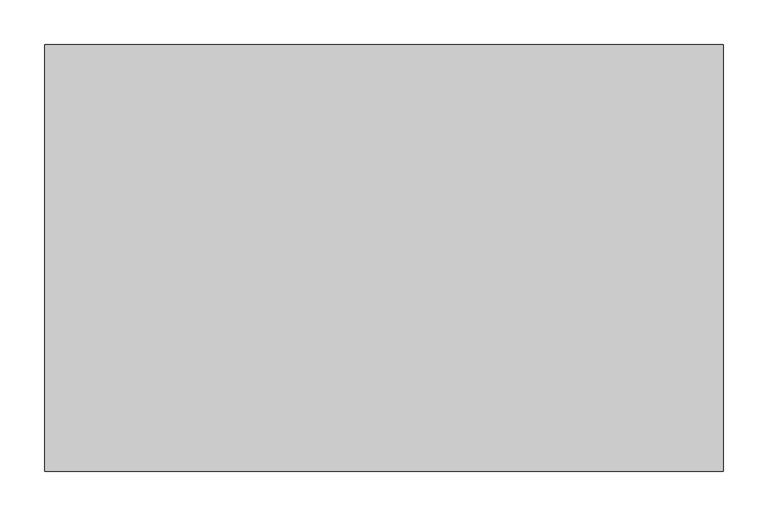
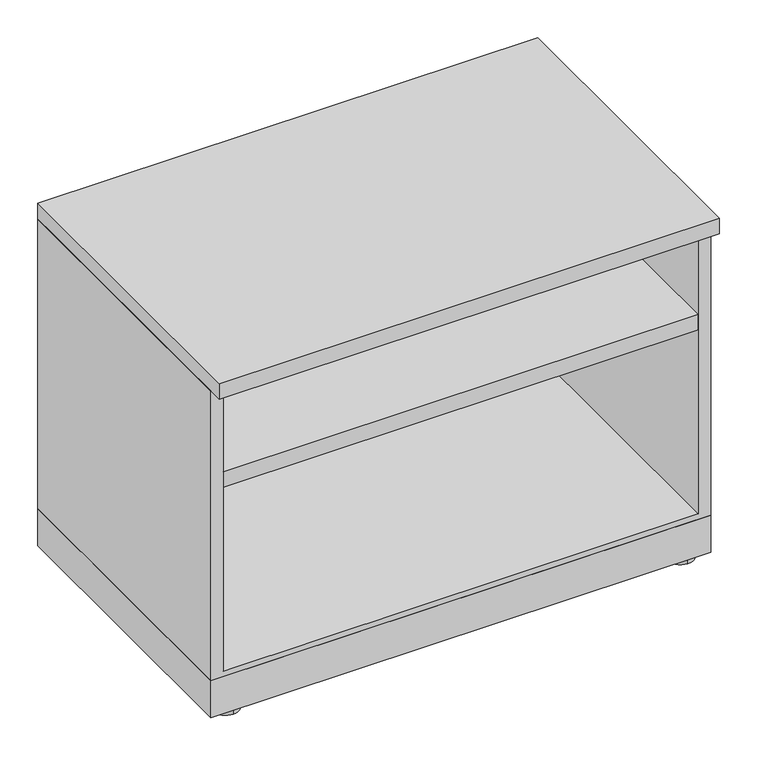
"""IFC4 building model written with IfcOpenShell, lengths in millimetres: furniture geometry, Steelcase - Universal Storage - Lateral File - 1.5 High - Proud Front : Open/Open - 18 7/8D x 30W."""

from ifc_helpers import new_model, si_unit, point, frame, frame_2d, origin, origin_with_axes, place, context, project, spatial, polyline, circle_curve, trimmed, segment, composite_curve, outline, extrude, source, transform, mapped, element, save


def furniture_ae2f3f5d(model_context):
    return source(origin(), model_context, "Body", "SweptSolid", [
        extrude(outline(polyline([(762.0, 0.0), (762.0, -457.2), (0.0, -457.2), (0.0, 0.0), (762.0, 0.0)])), frame((0.0, 0.0, 6.3500002), z_axis=(0.0, 0.0, 1.0), x_axis=(1.0, 0.0, 0.0)), (0.0, 0.0, 1.0), 59.6899998),
        extrude(outline(composite_curve([segment(trimmed(circle_curve(frame_2d((727.3290058, -22.3366334)), 20.32), [point((727.3290058, -42.6566334))], [point((727.3290058, -2.0166334))], False, "CARTESIAN"), True, "CONTINUOUS"), segment(trimmed(circle_curve(frame_2d((727.3290058, -22.3366334)), 20.32), [point((727.3290058, -2.0166334))], [point((727.3290058, -42.6566334))], False, "CARTESIAN"), True, "CONTINUOUS")], self_intersect=False)), origin_with_axes(), (0.0, 0.0, 1.0), 6.3500002),
        extrude(outline(composite_curve([segment(trimmed(circle_curve(frame_2d((727.3290058, -436.4508545)), 20.32), [point((727.3290058, -456.7708545))], [point((727.3290058, -416.1308545))], False, "CARTESIAN"), True, "CONTINUOUS"), segment(trimmed(circle_curve(frame_2d((727.3290058, -436.4508545)), 20.32), [point((727.3290058, -416.1308545))], [point((727.3290058, -456.7708545))], False, "CARTESIAN"), True, "CONTINUOUS")], self_intersect=False)), origin_with_axes(), (0.0, 0.0, 1.0), 6.3500002),
        extrude(outline(composite_curve([segment(trimmed(circle_curve(frame_2d((34.29, -22.3366334)), 20.32), [point((34.29, -2.0166334))], [point((34.29, -42.6566334))], False, "CARTESIAN"), True, "CONTINUOUS"), segment(trimmed(circle_curve(frame_2d((34.29, -22.3366334)), 20.32), [point((34.29, -42.6566334))], [point((34.29, -2.0166334))], False, "CARTESIAN"), True, "CONTINUOUS")], self_intersect=False)), origin_with_axes(), (0.0, 0.0, 1.0), 6.3500002),
        extrude(outline(composite_curve([segment(trimmed(circle_curve(frame_2d((34.29, -436.4508545)), 20.32), [point((34.29, -416.1308545))], [point((34.29, -456.7708545))], False, "CARTESIAN"), True, "CONTINUOUS"), segment(trimmed(circle_curve(frame_2d((34.29, -436.4508545)), 20.32), [point((34.29, -456.7708545))], [point((34.29, -416.1308545))], False, "CARTESIAN"), True, "CONTINUOUS")], self_intersect=False)), origin_with_axes(), (0.0, 0.0, 1.0), 6.3500002),
        extrude(outline(polyline([(533.273, 19.05), (533.273, 0.0), (66.04, 0.0), (66.04, 762.0), (533.273, 762.0), (533.273, 742.95), (75.184001, 742.95), (75.184001, 19.05), (533.273, 19.05)])), frame((0.0, -457.0730121, 0.0), z_axis=(0.0, 1.0, 0.0), x_axis=(0.0, 0.0, 1.0)), (0.0, 0.0, 1.0), 457.0730121),
        extrude(outline(polyline([(742.95, 0.0), (742.95, -3.9370001), (19.05, -3.9370001), (19.05, 0.0), (742.95, 0.0)])), frame((0.0, 0.0, 75.184001), z_axis=(0.0, 0.0, 1.0), x_axis=(1.0, 0.0, 0.0)), (0.0, 0.0, 1.0), 458.088999),
        extrude(outline(polyline([(-16.1036001, 371.5511945), (-457.0730121, 371.5511945), (-457.0730121, 396.8242158), (-19.2785993, 396.8242158), (-19.2785993, 410.7941843), (-16.1036001, 410.7941843), (-16.1036001, 371.5511945)])), frame((19.05, 0.0, 0.0), z_axis=(1.0, 0.0, 0.0), x_axis=(0.0, 1.0, 0.0)), (0.0, 0.0, 1.0), 723.9),
        extrude(outline(polyline([(762.0, 0.0), (762.0, -479.298), (0.0, -479.298), (0.0, 0.0), (762.0, 0.0)])), frame((0.0, 0.0, 533.273), z_axis=(0.0, 0.0, 1.0), x_axis=(1.0, 0.0, 0.0)), (0.0, 0.0, 1.0), 25.399985),
    ])


if __name__ == "__main__":
    model = new_model("IFC4")
    model_context = context("Model", 3, world=origin())
    ifc_project = project(units=[si_unit("LENGTHUNIT", "METRE", prefix="MILLI")], contexts=[model_context])
    site = spatial("IfcSite", under=ifc_project)
    building = spatial("IfcBuilding", under=site)
    placement = place(None, origin())
    furniture_shape = furniture_ae2f3f5d(model_context)
    element("IfcFurniture", 1, ObjectType="Steelcase - Universal Storage - Lateral File - 1.5 High - Proud Front : Open/Open - 18 7/8D x 30W", at=placement, inside=building, context=model_context, shape_type="MappedRepresentation", body=[
        mapped(furniture_shape, transform((0.0, 0.0, 0.0), x_axis=(1.0, 0.0, 0.0), y_axis=(0.0, 1.0, 0.0), z_axis=(0.0, 0.0, 1.0))),
    ])
    save(model, "model.ifc")
